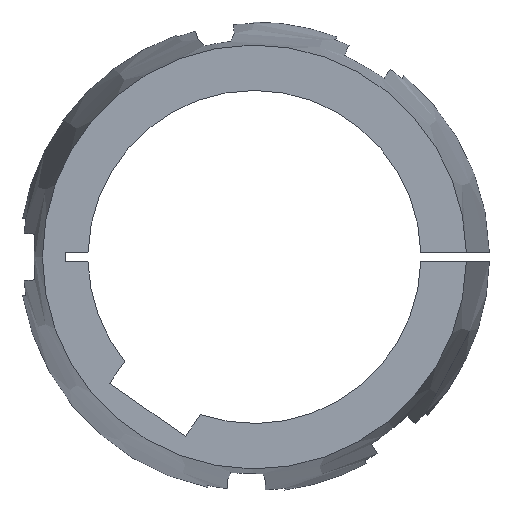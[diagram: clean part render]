
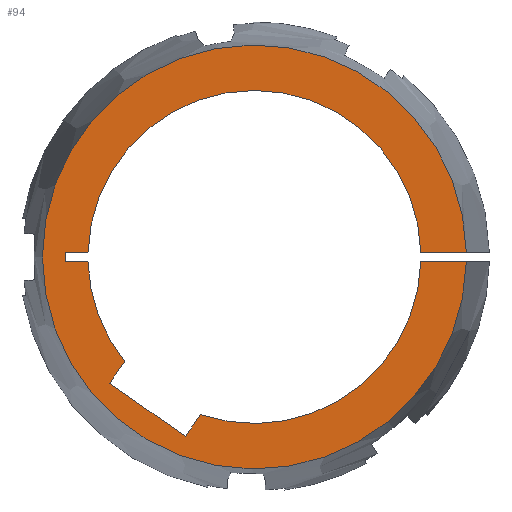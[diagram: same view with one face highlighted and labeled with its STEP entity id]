
A CAD part, left-side view. The second image highlights one B-rep face of the part: STEP entity #94.
In plain terms, the highlighted planar face has unit normal (-1, 0, 0).
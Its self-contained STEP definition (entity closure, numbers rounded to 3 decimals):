
#94 = ADVANCED_FACE( '', ( #200 ), #201, .F. );
#200 = FACE_OUTER_BOUND( '', #315, .T. );
#201 = PLANE( '', #316 );
#315 = EDGE_LOOP( '', ( #563, #564, #565, #566, #567, #568, #569, #570, #571, #572, #573, #574 ) );
#316 = AXIS2_PLACEMENT_3D( '', #575, #576, #577 );
#563 = ORIENTED_EDGE( '', *, *, #822, .T. );
#564 = ORIENTED_EDGE( '', *, *, #823, .T. );
#565 = ORIENTED_EDGE( '', *, *, #725, .T. );
#566 = ORIENTED_EDGE( '', *, *, #818, .T. );
#567 = ORIENTED_EDGE( '', *, *, #764, .T. );
#568 = ORIENTED_EDGE( '', *, *, #793, .F. );
#569 = ORIENTED_EDGE( '', *, *, #761, .T. );
#570 = ORIENTED_EDGE( '', *, *, #815, .T. );
#571 = ORIENTED_EDGE( '', *, *, #824, .T. );
#572 = ORIENTED_EDGE( '', *, *, #825, .T. );
#573 = ORIENTED_EDGE( '', *, *, #826, .T. );
#574 = ORIENTED_EDGE( '', *, *, #812, .T. );
#575 = CARTESIAN_POINT( '', ( -89., 0., 0. ) );
#576 = DIRECTION( '', ( 1., 0., 0. ) );
#577 = DIRECTION( '', ( 0., 0., -1. ) );
#725 = EDGE_CURVE( '', #868, #866, #869, .T. );
#761 = EDGE_CURVE( '', #932, #930, #933, .T. );
#764 = EDGE_CURVE( '', #936, #937, #938, .T. );
#793 = EDGE_CURVE( '', #932, #937, #980, .T. );
#812 = EDGE_CURVE( '', #1012, #1010, #1013, .T. );
#815 = EDGE_CURVE( '', #930, #1016, #1017, .T. );
#818 = EDGE_CURVE( '', #866, #936, #1020, .T. );
#822 = EDGE_CURVE( '', #1010, #1024, #1025, .T. );
#823 = EDGE_CURVE( '', #1024, #868, #1026, .T. );
#824 = EDGE_CURVE( '', #1016, #1027, #1028, .T. );
#825 = EDGE_CURVE( '', #1027, #1029, #1030, .T. );
#826 = EDGE_CURVE( '', #1029, #1012, #1031, .T. );
#866 = VERTEX_POINT( '', #1075 );
#868 = VERTEX_POINT( '', #1078 );
#869 = LINE( '', #1079, #1080 );
#930 = VERTEX_POINT( '', #1152 );
#932 = VERTEX_POINT( '', #1155 );
#933 = LINE( '', #1156, #1157 );
#936 = VERTEX_POINT( '', #1166 );
#937 = VERTEX_POINT( '', #1167 );
#938 = LINE( '', #1168, #1169 );
#980 = CIRCLE( '', #1313, 57.277 );
#1010 = VERTEX_POINT( '', #1440 );
#1012 = VERTEX_POINT( '', #1443 );
#1013 = CIRCLE( '', #1444, 45. );
#1016 = VERTEX_POINT( '', #1448 );
#1017 = CIRCLE( '', #1449, 45. );
#1020 = CIRCLE( '', #1453, 45. );
#1024 = VERTEX_POINT( '', #1457 );
#1025 = LINE( '', #1458, #1459 );
#1026 = LINE( '', #1460, #1461 );
#1027 = VERTEX_POINT( '', #1462 );
#1028 = LINE( '', #1463, #1464 );
#1029 = VERTEX_POINT( '', #1465 );
#1030 = LINE( '', #1466, #1467 );
#1031 = LINE( '', #1468, #1469 );
#1075 = CARTESIAN_POINT( '', ( -89., 44.983, 1.25 ) );
#1078 = CARTESIAN_POINT( '', ( -89., 51., 1.25 ) );
#1079 = CARTESIAN_POINT( '', ( -89., 51., 1.25 ) );
#1080 = VECTOR( '', #1511, 1000. );
#1152 = CARTESIAN_POINT( '', ( -89., -44.983, -1.25 ) );
#1155 = CARTESIAN_POINT( '', ( -89., -57.263, -1.25 ) );
#1156 = CARTESIAN_POINT( '', ( -89., -63.5, -1.25 ) );
#1157 = VECTOR( '', #1581, 1000. );
#1166 = CARTESIAN_POINT( '', ( -89., -44.983, 1.25 ) );
#1167 = CARTESIAN_POINT( '', ( -89., -57.263, 1.25 ) );
#1168 = CARTESIAN_POINT( '', ( -89., 0., 1.25 ) );
#1169 = VECTOR( '', #1582, 1000. );
#1313 = AXIS2_PLACEMENT_3D( '', #1605, #1606, #1607 );
#1440 = CARTESIAN_POINT( '', ( -89., 44.983, -1.25 ) );
#1443 = CARTESIAN_POINT( '', ( -89., 35.035, -28.241 ) );
#1444 = AXIS2_PLACEMENT_3D( '', #1624, #1625, #1626 );
#1448 = CARTESIAN_POINT( '', ( -89., 14.556, -42.581 ) );
#1449 = AXIS2_PLACEMENT_3D( '', #1628, #1629, #1630 );
#1453 = AXIS2_PLACEMENT_3D( '', #1632, #1633, #1634 );
#1457 = CARTESIAN_POINT( '', ( -89., 51., -1.25 ) );
#1458 = CARTESIAN_POINT( '', ( -89., 0., -1.25 ) );
#1459 = VECTOR( '', #1638, 1000. );
#1460 = CARTESIAN_POINT( '', ( -89., 51., -1.25 ) );
#1461 = VECTOR( '', #1639, 1000. );
#1462 = CARTESIAN_POINT( '', ( -89., 18.669, -48.455 ) );
#1463 = CARTESIAN_POINT( '', ( -89., 14.556, -42.581 ) );
#1464 = VECTOR( '', #1640, 1000. );
#1465 = CARTESIAN_POINT( '', ( -89., 39.148, -34.116 ) );
#1466 = CARTESIAN_POINT( '', ( -89., 18.669, -48.455 ) );
#1467 = VECTOR( '', #1641, 1000. );
#1468 = CARTESIAN_POINT( '', ( -89., 39.148, -34.116 ) );
#1469 = VECTOR( '', #1642, 1000. );
#1511 = DIRECTION( '', ( 0., -1., 0. ) );
#1581 = DIRECTION( '', ( 0., 1., 0. ) );
#1582 = DIRECTION( '', ( 0., -1., 0. ) );
#1605 = CARTESIAN_POINT( '', ( -89., 0., 0. ) );
#1606 = DIRECTION( '', ( 1., 0., 0. ) );
#1607 = DIRECTION( '', ( 0., 0., -1. ) );
#1624 = CARTESIAN_POINT( '', ( -89., 0., 0. ) );
#1625 = DIRECTION( '', ( 1., 0., 0. ) );
#1626 = DIRECTION( '', ( 0., 0., -1. ) );
#1628 = CARTESIAN_POINT( '', ( -89., 0., 0. ) );
#1629 = DIRECTION( '', ( 1., 0., 0. ) );
#1630 = DIRECTION( '', ( 0., 0., -1. ) );
#1632 = CARTESIAN_POINT( '', ( -89., 0., 0. ) );
#1633 = DIRECTION( '', ( 1., 0., 0. ) );
#1634 = DIRECTION( '', ( 0., 0., -1. ) );
#1638 = DIRECTION( '', ( 0., 1., 0. ) );
#1639 = DIRECTION( '', ( 0., 0., 1. ) );
#1640 = DIRECTION( '', ( 0., 0.574, -0.819 ) );
#1641 = DIRECTION( '', ( 0., 0.819, 0.574 ) );
#1642 = DIRECTION( '', ( 0., -0.574, 0.819 ) );
